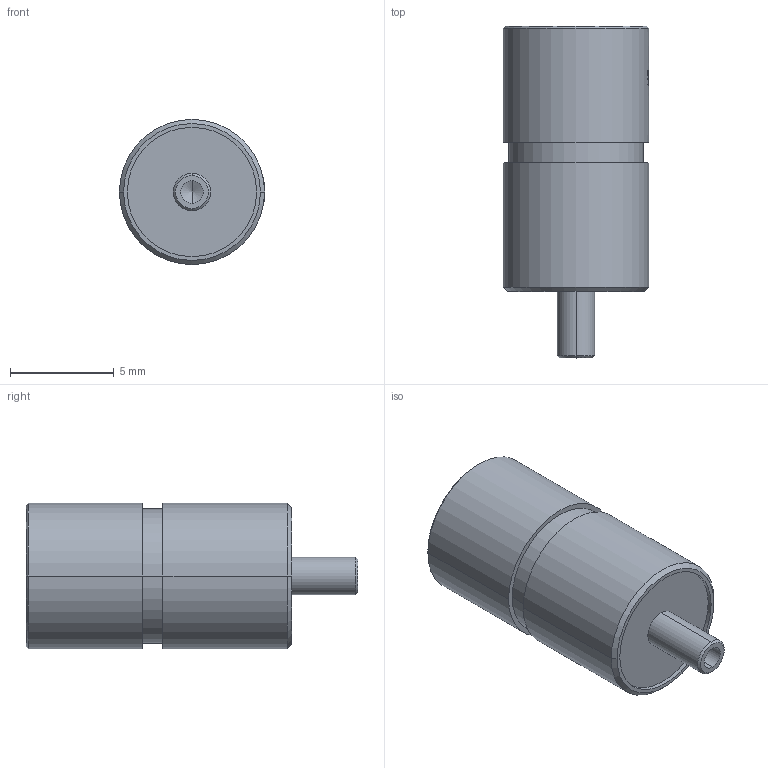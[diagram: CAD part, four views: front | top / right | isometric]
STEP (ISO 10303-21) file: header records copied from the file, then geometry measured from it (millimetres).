
FILE_DESCRIPTION((''),'2;1');
FILE_NAME('S025A','2023-09-10T',('WYH'),(''),'PRO/ENGINEER BY PARAMETRIC TECHNOLOGY CORPORATION, 2013040','PRO/ENGINEER BY PARAMETRIC TECHNOLOGY CORPORATION, 2013040','');
FILE_SCHEMA(('CONFIG_CONTROL_DESIGN'));
Length unit declared in the file: millimetre
Products named in the file (1): S025A
Bounding box: 7 x 16 x 7 mm (x, y, z)
Volume: 344.2 mm3; surface area: 716.9 mm2
Topology: 1 solids, 1 shells, 479 faces, 1342 edges, 885 vertices
Faces by surface type: plane 432, cylinder 35, cone 10, bspline 2
Entity records: 15359 total; most frequent: CARTESIAN_POINT 3281, ORIENTED_EDGE 2680, DIRECTION 2213, EDGE_CURVE 1340, VECTOR 971, LINE 971, VERTEX_POINT 885, AXIS2_PLACEMENT_3D 621
